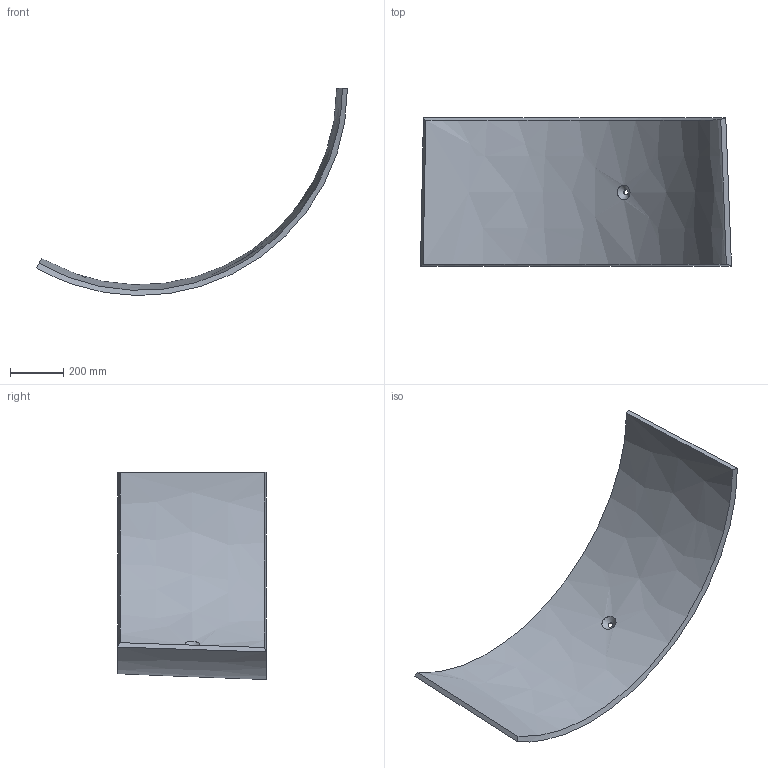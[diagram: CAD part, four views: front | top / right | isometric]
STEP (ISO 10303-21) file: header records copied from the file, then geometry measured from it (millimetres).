
FILE_DESCRIPTION (( 'STEP AP214' ), '1' );
FILE_NAME ('P2.STEP', '2025-01-09T19:43:26', ( '' ), ( '' ), 'SwSTEP 2.0', 'SolidWorks 2024', '' );
FILE_SCHEMA (( 'AUTOMOTIVE_DESIGN' ));
Length unit declared in the file: inch
Products named in the file (1): P2
Bounding box: 1164.19 x 555.62 x 775.39 mm (x, y, z)
Volume: 16482797.8 mm3; surface area: 1821093.1 mm2
Topology: 1 solids, 1 shells, 8 faces, 19 edges, 13 vertices
Faces by surface type: bspline 7, cylinder 1
Full cylindrical faces by diameter (mm): 19.431 x1
Entity records: 2449 total; most frequent: CARTESIAN_POINT 2301, ORIENTED_EDGE 30, B_SPLINE_CURVE_WITH_KNOTS 15, EDGE_CURVE 15, EDGE_LOOP 12, VERTEX_POINT 11, FACE_OUTER_BOUND 10, ADVANCED_FACE 8
